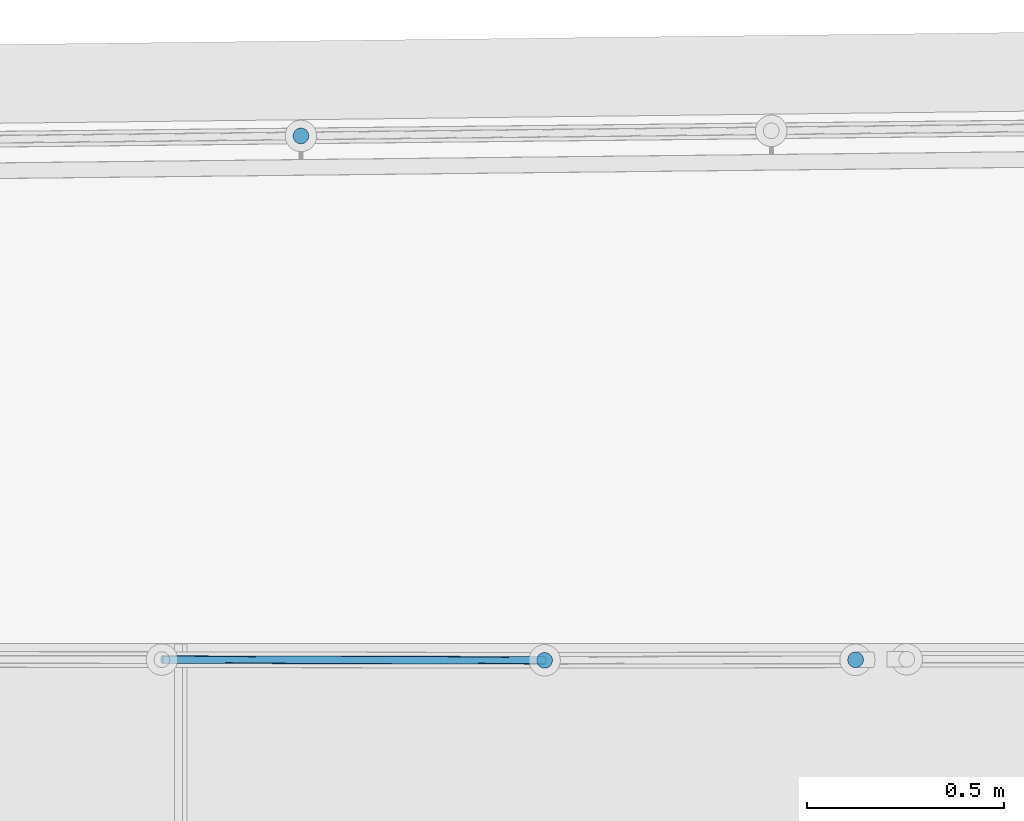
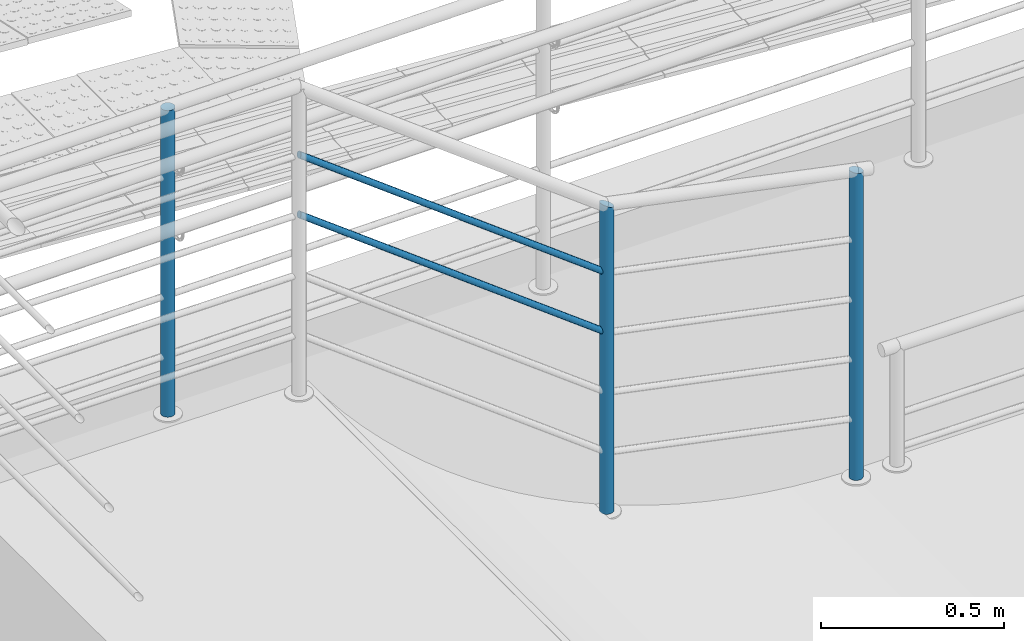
# One storey, part 34 of 237: 5 building element parts, 2 elements without a shape of their own.
"""IFC2X3 building model written with IfcOpenShell, lengths in millimetres."""

from ifc_helpers import new_model, entity, si_unit, converted_unit, derived_unit, money_unit, direction, frame, origin_with_axes, place, context, subcontext, project, spatial, faceted_brep, material, type_object, element, aggregate, save


model = new_model("IFC2X3")

# Units and contexts
model_context = context("Model", 3, precision=0.01, world=origin_with_axes(), true_north=direction((0.0, 1.0)))
body_context = subcontext(model_context, "Body", "Model", "MODEL_VIEW")
ifc_project = project(units=[si_unit("LENGTHUNIT", "METRE", prefix="MILLI"), si_unit("AREAUNIT", "SQUARE_METRE"), si_unit("VOLUMEUNIT", "CUBIC_METRE"), converted_unit("PLANEANGLEUNIT", "DEGREE", entity("IfcPlaneAngleMeasure", 0.0174532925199), si_unit("PLANEANGLEUNIT", "RADIAN"), dimensions=[0, 0, 0, 0, 0, 0, 0]), money_unit("USD"), converted_unit("TIMEUNIT", "Year", entity("IfcTimeMeasure", 31556926.0), si_unit("TIMEUNIT", "SECOND"), dimensions=[0, 0, 1, 0, 0, 0, 0]), si_unit("MASSUNIT", "GRAM", prefix="KILO"), si_unit("THERMODYNAMICTEMPERATUREUNIT", "DEGREE_CELSIUS"), si_unit("LUMINOUSINTENSITYUNIT", "LUMEN"), si_unit("ENERGYUNIT", "JOULE", prefix="MEGA"), derived_unit("THERMALCONDUCTANCEUNIT", [(si_unit("POWERUNIT", "WATT"), 1), (si_unit("LENGTHUNIT", "METRE"), -1), (si_unit("THERMODYNAMICTEMPERATUREUNIT", "KELVIN"), -1)]), derived_unit("SPECIFICHEATCAPACITYUNIT", [(si_unit("ENERGYUNIT", "JOULE"), 1), (si_unit("MASSUNIT", "GRAM", prefix="KILO"), -1), (si_unit("THERMODYNAMICTEMPERATUREUNIT", "KELVIN"), -1)]), derived_unit("MASSDENSITYUNIT", [(si_unit("MASSUNIT", "GRAM", prefix="KILO"), 1), (si_unit("VOLUMEUNIT", "CUBIC_METRE"), -1)])], contexts=[model_context])

# Site, building, storey
site_placement = place(None, origin_with_axes())
site = spatial("IfcSite", under=ifc_project, at=site_placement, Name="Local", CompositionType="ELEMENT")
building_placement = place(site_placement, origin_with_axes())
building = spatial("IfcBuilding", under=site, at=building_placement, Name="Construção", CompositionType="ELEMENT")
storey_placement = place(building_placement, origin_with_axes())
storey = spatial("IfcBuildingStorey", under=building, at=storey_placement, Name="Pavimento Térreo", CompositionType="ELEMENT", Elevation=0.0)

# Railing, building element part
railing_type = type_object("IfcRailingType", Name="Tipo de Guarda-Corpo", PredefinedType="NOTDEFINED")
railing_1_placement = place(storey_placement, frame((70326.6870103, 28675.2458388, -1357.10819655), z_axis=(0.0, 0.0, 1.0), x_axis=(1.0, 0.0, 0.0)))
railing_1 = element("IfcRailing", 1, at=railing_1_placement, inside=storey, type_object=railing_type, Name="Guarda-Corpo - 004", PredefinedType="NOTDEFINED")
ifc_material = material(Name="Aço - Inoxidável")
building_element_part_1_placement = place(railing_1_placement, origin_with_axes())
building_element_part_1 = element("IfcBuildingElementPart", 2, at=building_element_part_1_placement, material=ifc_material, Name="Aço - Inoxidável", context=body_context, shape_type="Brep", body=[
    faceted_brep([(-17859.6291669, 6528.80504261, 5.0), (-17863.1052296, 6529.07109751, 5.0), (-17863.1052296, 6529.07109751, 1030.0), (-17859.6291669, 6528.80504261, 1030.0), (-17866.5746831, 6528.72949848, 5.0), (-17856.2521132, 6527.93941772, 5.0), (-17853.0766788, 6526.50052441, 5.0), (-17850.1993476, 6524.53208272, 5.0), (-17847.7075459, 6522.09390276, 5.0), (-17845.6769857, 6519.2600674, 5.0), (-17844.1693646, 6516.11668129, 5.0), (-17843.2304909, 6512.75925462, 5.0), (-17842.8888919, 6509.2898011, 5.0), (-17843.1549468, 6505.81373833, 5.0), (-17844.0205717, 6502.43668472, 5.0), (-17845.459465, 6499.26125032, 5.0), (-17847.4279067, 6496.3839191, 5.0), (-17849.8660866, 6493.89211733, 5.0), (-17852.699922, 6491.86155713, 5.0), (-17855.8433081, 6490.35393604, 5.0), (-17859.2007348, 6489.41506238, 5.0), (-17862.6701883, 6489.07346335, 5.0), (-17866.1462511, 6489.33951825, 5.0), (-17869.5233047, 6490.20514314, 5.0), (-17872.6987391, 6491.64403645, 5.0), (-17875.5760703, 6493.61247814, 5.0), (-17878.0678721, 6496.0506581, 5.0), (-17880.0984323, 6498.88449346, 5.0), (-17881.6060533, 6502.02787957, 5.0), (-17882.544927, 6505.38530624, 5.0), (-17882.886526, 6508.85475976, 5.0), (-17882.6204711, 6512.33082253, 5.0), (-17881.7548462, 6515.70787614, 5.0), (-17880.3159529, 6518.88331054, 5.0), (-17878.3475112, 6521.76064176, 5.0), (-17875.9093313, 6524.25244353, 5.0), (-17873.0754959, 6526.28300373, 5.0), (-17869.9321098, 6527.79062482, 5.0), (-17866.5746831, 6528.72949848, 1030.0), (-17843.1549468, 6505.81373833, 1030.0), (-17842.8888919, 6509.2898011, 1030.0), (-17843.2304909, 6512.75925462, 1030.0), (-17844.1693646, 6516.11668129, 1030.0), (-17845.6769857, 6519.2600674, 1030.0), (-17847.7075459, 6522.09390276, 1030.0), (-17850.1993476, 6524.53208272, 1030.0), (-17853.0766788, 6526.50052441, 1030.0), (-17856.2521132, 6527.93941772, 1030.0), (-17869.9321098, 6527.79062482, 1030.0), (-17873.0754959, 6526.28300373, 1030.0), (-17875.9093313, 6524.25244353, 1030.0), (-17878.3475112, 6521.76064176, 1030.0), (-17880.3159529, 6518.88331054, 1030.0), (-17881.7548462, 6515.70787614, 1030.0), (-17882.6204711, 6512.33082253, 1030.0), (-17882.886526, 6508.85475976, 1030.0), (-17882.544927, 6505.38530624, 1030.0), (-17881.6060533, 6502.02787957, 1030.0), (-17880.0984323, 6498.88449346, 1030.0), (-17878.0678721, 6496.0506581, 1030.0), (-17875.5760703, 6493.61247814, 1030.0), (-17872.6987391, 6491.64403645, 1030.0), (-17869.5233047, 6490.20514314, 1030.0), (-17866.1462511, 6489.33951825, 1030.0), (-17862.6701883, 6489.07346335, 1030.0), (-17859.2007348, 6489.41506238, 1030.0), (-17855.8433081, 6490.35393604, 1030.0), (-17852.699922, 6491.86155713, 1030.0), (-17849.8660866, 6493.89211733, 1030.0), (-17847.4279067, 6496.3839191, 1030.0), (-17845.459465, 6499.26125032, 1030.0), (-17844.0205717, 6502.43668472, 1030.0)], [[[0, 1, 2, 3]], [[4, 1, 0, 5, 6, 7, 8, 9, 10, 11, 12, 13, 14, 15, 16, 17, 18, 19, 20, 21, 22, 23, 24, 25, 26, 27, 28, 29, 30, 31, 32, 33, 34, 35, 36, 37]], [[1, 4, 38, 2]], [[39, 40, 41, 42, 43, 44, 45, 46, 47, 3, 2, 38, 48, 49, 50, 51, 52, 53, 54, 55, 56, 57, 58, 59, 60, 61, 62, 63, 64, 65, 66, 67, 68, 69, 70, 71]], [[5, 0, 3, 47]], [[6, 5, 47, 46]], [[7, 6, 46, 45]], [[8, 7, 45, 44]], [[9, 8, 44, 43]], [[10, 9, 43, 42]], [[11, 10, 42, 41]], [[12, 11, 41, 40]], [[13, 12, 40, 39]], [[14, 13, 39, 71]], [[15, 14, 71, 70]], [[16, 15, 70, 69]], [[17, 16, 69, 68]], [[18, 17, 68, 67]], [[19, 18, 67, 66]], [[20, 19, 66, 65]], [[21, 20, 65, 64]], [[22, 21, 64, 63]], [[23, 22, 63, 62]], [[24, 23, 62, 61]], [[25, 24, 61, 60]], [[26, 25, 60, 59]], [[27, 26, 59, 58]], [[28, 27, 58, 57]], [[29, 28, 57, 56]], [[30, 29, 56, 55]], [[31, 30, 55, 54]], [[32, 31, 54, 53]], [[33, 32, 53, 52]], [[34, 33, 52, 51]], [[35, 34, 51, 50]], [[36, 35, 50, 49]], [[37, 36, 49, 48]], [[4, 37, 48, 38]]]),
])
aggregate(railing_1, [building_element_part_1])

# Railing, building element parts
railing_2_placement = place(storey_placement, frame((53912.4440926, 33356.4497128, -1263.04952679), z_axis=(0.0, 0.0, 1.0), x_axis=(1.0, 0.0, 0.0)))
railing_2 = element("IfcRailing", 3, at=railing_2_placement, inside=storey, type_object=railing_type, Name="Guarda-Corpo - 001", PredefinedType="NOTDEFINED")
building_element_part_2_placement = place(railing_2_placement, origin_with_axes())
building_element_part_2 = element("IfcBuildingElementPart", 4, at=building_element_part_2_placement, material=ifc_material, Name="Aço - Inoxidável", context=body_context, shape_type="Brep", body=[
    faceted_brep([(-36.4923785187, 516.842523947, 13.3012502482), (-39.9658548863, 517.140449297, 13.3012502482), (-39.9658548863, 517.140449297, 1038.30125025), (-36.4923785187, 516.842523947, 1037.58050176), (-43.438295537, 516.83068565, 13.3012502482), (-33.1234062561, 515.945961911, 13.3012502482), (-29.9613026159, 514.478004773, 13.3012502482), (-27.1021465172, 512.483255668, 13.3012502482), (-24.6328119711, 510.022324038, 13.3012502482), (-22.6283284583, 507.169984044, 13.3012502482), (-21.149601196, 504.012902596, 13.3012502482), (-20.2415605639, 500.647006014, 13.3012502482), (-19.9317969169, 497.174565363, 13.3012502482), (-20.2297222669, 493.701088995, 13.3012502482), (-21.1262843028, 490.332116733, 13.3012502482), (-22.5942414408, 487.170013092, 13.3012502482), (-24.5889905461, 484.310856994, 13.3012502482), (-27.0499221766, 481.841522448, 13.3012502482), (-29.9022621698, 479.837038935, 13.3012502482), (-33.0593436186, 478.358311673, 13.3012502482), (-36.4252402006, 477.45027104, 13.3012502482), (-39.8976808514, 477.140507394, 13.3012502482), (-43.3711572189, 477.438432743, 13.3012502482), (-46.7401294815, 478.334994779, 13.3012502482), (-49.9022331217, 479.802951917, 13.3012502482), (-52.7613892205, 481.797701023, 13.3012502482), (-55.2307237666, 484.258632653, 13.3012502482), (-57.2352072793, 487.110972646, 13.3012502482), (-58.7139345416, 490.268054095, 13.3012502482), (-59.6219751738, 493.633950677, 13.3012502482), (-59.9317388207, 497.106391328, 13.3012502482), (-59.6338134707, 500.579867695, 13.3012502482), (-58.7372514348, 503.948839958, 13.3012502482), (-57.2692942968, 507.110943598, 13.3012502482), (-55.2745451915, 509.970099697, 13.3012502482), (-52.813613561, 512.439434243, 13.3012502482), (-49.9612735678, 514.443917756, 13.3012502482), (-46.804192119, 515.922645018, 13.3012502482), (-43.438295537, 516.83068565, 1039.02199874), (-20.2297222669, 493.701088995, 1034.21368245), (-19.9317969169, 497.174565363, 1034.15062512), (-20.2415605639, 500.647006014, 1034.21368245), (-21.149601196, 504.012902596, 1034.40093845), (-22.6283284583, 507.169984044, 1034.70670345), (-24.6328119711, 510.022324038, 1035.12168694), (-27.1021465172, 512.483255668, 1035.63327985), (-29.9613026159, 514.478004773, 1036.22593769), (-33.1234062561, 515.945961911, 1036.88165285), (-46.804192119, 515.922645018, 1039.72084765), (-49.9612735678, 514.443917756, 1040.37656281), (-52.813613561, 512.439434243, 1040.96922065), (-55.2745451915, 509.970099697, 1041.48081356), (-57.2692942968, 507.110943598, 1041.89579705), (-58.7372514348, 503.948839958, 1042.20156205), (-59.6338134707, 500.579867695, 1042.38881805), (-59.9317388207, 497.106391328, 1042.45187537), (-59.6219751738, 493.633950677, 1042.38881805), (-58.7139345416, 490.268054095, 1042.20156205), (-57.2352072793, 487.110972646, 1041.89579705), (-55.2307237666, 484.258632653, 1041.48081356), (-52.7613892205, 481.797701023, 1040.96922065), (-49.9022331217, 479.802951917, 1040.37656281), (-46.7401294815, 478.334994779, 1039.72084765), (-43.3711572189, 477.438432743, 1039.02199874), (-39.8976808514, 477.140507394, 1038.30125025), (-36.4252402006, 477.45027104, 1037.58050176), (-33.0593436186, 478.358311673, 1036.88165285), (-29.9022621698, 479.837038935, 1036.22593769), (-27.0499221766, 481.841522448, 1035.63327985), (-24.5889905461, 484.310856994, 1035.12168694), (-22.5942414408, 487.170013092, 1034.70670345), (-21.1262843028, 490.332116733, 1034.40093845)], [[[0, 1, 2, 3]], [[4, 1, 0, 5, 6, 7, 8, 9, 10, 11, 12, 13, 14, 15, 16, 17, 18, 19, 20, 21, 22, 23, 24, 25, 26, 27, 28, 29, 30, 31, 32, 33, 34, 35, 36, 37]], [[1, 4, 38, 2]], [[39, 40, 41, 42, 43, 44, 45, 46, 47, 3, 2, 38, 48, 49, 50, 51, 52, 53, 54, 55, 56, 57, 58, 59, 60, 61, 62, 63, 64, 65, 66, 67, 68, 69, 70, 71]], [[5, 0, 3, 47]], [[6, 5, 47, 46]], [[7, 6, 46, 45]], [[8, 7, 45, 44]], [[9, 8, 44, 43]], [[10, 9, 43, 42]], [[11, 10, 42, 41]], [[12, 11, 41, 40]], [[13, 12, 40, 39]], [[14, 13, 39, 71]], [[15, 14, 71, 70]], [[16, 15, 70, 69]], [[17, 16, 69, 68]], [[18, 17, 68, 67]], [[19, 18, 67, 66]], [[20, 19, 66, 65]], [[21, 20, 65, 64]], [[22, 21, 64, 63]], [[23, 22, 63, 62]], [[24, 23, 62, 61]], [[25, 24, 61, 60]], [[26, 25, 60, 59]], [[27, 26, 59, 58]], [[28, 27, 58, 57]], [[29, 28, 57, 56]], [[30, 29, 56, 55]], [[31, 30, 55, 54]], [[32, 31, 54, 53]], [[33, 32, 53, 52]], [[34, 33, 52, 51]], [[35, 34, 51, 50]], [[36, 35, 50, 49]], [[37, 36, 49, 48]], [[4, 37, 48, 38]]]),
])
building_element_part_3_placement = place(railing_2_placement, origin_with_axes())
building_element_part_3 = element("IfcBuildingElementPart", 5, at=building_element_part_3_placement, material=ifc_material, Name="Aço - Inoxidável", context=body_context, shape_type="Brep", body=[
    faceted_brep([(-826.237588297, 515.496519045, 177.162822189), (-829.71106404, 515.794444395, 177.162822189), (-829.701707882, 515.794458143, 1202.18356273), (-826.228374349, 515.496532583, 1200.60893304), (-833.183505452, 515.484680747, 177.162822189), (-822.884994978, 514.604315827, 177.162822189), (-822.868618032, 514.599957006, 177.162822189), (-819.721910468, 513.139147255, 177.162822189), (-819.706517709, 513.131999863, 177.162822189), (-816.861302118, 511.14697664, 177.162822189), (-816.847366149, 511.137250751, 177.162822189), (-814.390086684, 508.688333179, 177.162822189), (-814.378037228, 508.676319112, 177.162822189), (-812.383350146, 505.837919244, 177.162822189), (-812.373560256, 505.823979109, 177.162822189), (-810.902066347, 502.682340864, 177.162822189), (-810.894840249, 502.66689765, 177.162822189), (-809.991244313, 499.317476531, 177.162822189), (-809.986807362, 499.301001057, 177.162822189), (-809.678560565, 495.845564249, 177.162822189), (-809.677051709, 495.828560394, 177.162822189), (-809.973517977, 492.372095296, 177.162822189), (-809.974985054, 492.355084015, 177.162822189), (-810.867156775, 489.002609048, 177.162822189), (-810.871554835, 488.986111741, 177.162822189), (-812.332326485, 485.839486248, 177.162822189), (-812.339519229, 485.82400809, 177.162822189), (-814.324510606, 482.978838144, 177.162822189), (-814.334274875, 482.964851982, 177.162822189), (-816.783178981, 480.507586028, 177.162822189), (-816.795212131, 480.495517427, 177.162822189), (-819.633626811, 478.500819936, 177.162822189), (-819.647556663, 478.491033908, 177.162822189), (-822.789244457, 477.019516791, 177.162822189), (-822.804641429, 477.012306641, 177.162822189), (-826.154149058, 476.108687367, 177.162822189), (-826.170540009, 476.104266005, 177.162822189), (-829.642981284, 475.794502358, 177.162822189), (-833.11645689, 476.092427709, 177.162822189), (-836.469099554, 476.984644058, 177.162822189), (-836.485427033, 476.988989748, 177.162822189), (-839.632226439, 478.449842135, 177.162822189), (-839.647527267, 478.456946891, 177.162822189), (-842.492864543, 480.44205501, 177.162822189), (-842.506678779, 480.451696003, 177.162822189), (-844.964093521, 482.900748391, 177.162822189), (-844.9760077, 482.912627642, 177.162822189), (-846.970825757, 485.751213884, 177.162822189), (-846.980484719, 485.764967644, 177.162822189), (-848.452087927, 488.906839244, 177.162822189), (-848.459204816, 488.922049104, 177.162822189), (-849.362873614, 492.271740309, 177.162822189), (-849.367237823, 492.287945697, 177.162822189), (-849.675510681, 495.743674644, 177.162822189), (-849.676993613, 495.760386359, 177.162822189), (-849.380501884, 499.217148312, 177.162822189), (-849.379060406, 499.233862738, 177.162822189), (-848.486813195, 502.586621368, 177.162822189), (-848.482490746, 502.602835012, 177.162822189), (-847.021601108, 505.74971466, 177.162822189), (-847.014526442, 505.764938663, 177.162822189), (-845.029387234, 508.6103205, 177.162822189), (-845.019770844, 508.624094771, 177.162822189), (-842.57070532, 511.081522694, 177.162822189), (-842.558833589, 511.093429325, 177.162822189), (-839.720261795, 513.088237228, 177.162822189), (-839.706489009, 513.097912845, 177.162822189), (-836.56466578, 514.569493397, 177.162822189), (-836.549404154, 514.576640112, 177.162822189), (-833.199797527, 515.480286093, 177.162822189), (-833.174291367, 515.484694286, 1203.75756222), (-809.976609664, 492.355081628, 1193.23083892), (-809.677051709, 495.828560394, 1193.0967058), (-809.985182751, 499.301003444, 1193.23804203), (-810.891640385, 502.666902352, 1193.6505532), (-812.368882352, 505.823985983, 1194.32170535), (-814.372023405, 508.676327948, 1195.23110587), (-816.840199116, 511.137261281, 1196.35112308), (-819.698415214, 513.132011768, 1197.64772582), (-822.85982625, 514.599969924, 1199.08151749), (-836.540612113, 514.57665303, 1205.28310635), (-839.698386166, 513.097924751, 1206.71384222), (-842.551666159, 511.093439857, 1208.00629765), (-845.013756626, 508.624103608, 1209.12120203), (-847.009848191, 505.764945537, 1210.02467957), (-848.479290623, 502.602839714, 1210.68927854), (-849.377435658, 499.233865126, 1211.09480546), (-849.676993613, 495.760386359, 1211.22893858), (-849.368862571, 492.28794331, 1211.08760235), (-848.462404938, 488.922044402, 1210.67509118), (-846.98516297, 485.764960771, 1210.00393903), (-844.982021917, 482.912618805, 1209.09453851), (-842.513846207, 480.451685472, 1207.9745213), (-839.655630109, 478.456934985, 1206.67791855), (-836.494219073, 476.98897683, 1205.24412689), (-833.125670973, 476.09241417, 1203.71671134), (-829.65233744, 475.794488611, 1202.14208165), (-826.179753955, 476.104252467, 1200.56808216), (-822.81343321, 477.012293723, 1199.04253803), (-819.655659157, 478.491022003, 1197.61180216), (-816.802379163, 480.495506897, 1196.31934673), (-814.340288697, 482.964843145, 1195.20444234), (-812.344197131, 485.824001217, 1194.30096481), (-810.874754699, 488.986107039, 1193.63636583)], [[[0, 1, 2, 3]], [[4, 1, 0, 5, 6, 7, 8, 9, 10, 11, 12, 13, 14, 15, 16, 17, 18, 19, 20, 21, 22, 23, 24, 25, 26, 27, 28, 29, 30, 31, 32, 33, 34, 35, 36, 37, 38, 39, 40, 41, 42, 43, 44, 45, 46, 47, 48, 49, 50, 51, 52, 53, 54, 55, 56, 57, 58, 59, 60, 61, 62, 63, 64, 65, 66, 67, 68, 69]], [[1, 4, 70, 2]], [[71, 72, 73, 74, 75, 76, 77, 78, 79, 3, 2, 70, 80, 81, 82, 83, 84, 85, 86, 87, 88, 89, 90, 91, 92, 93, 94, 95, 96, 97, 98, 99, 100, 101, 102, 103]], [[5, 0, 3]], [[6, 5, 3, 79]], [[7, 6, 79]], [[8, 7, 79, 78]], [[9, 8, 78]], [[10, 9, 78, 77]], [[11, 10, 77]], [[12, 11, 77, 76]], [[13, 12, 76]], [[14, 13, 76, 75]], [[15, 14, 75]], [[16, 15, 75, 74]], [[17, 16, 74]], [[18, 17, 74, 73]], [[19, 18, 73]], [[20, 19, 73, 72]], [[21, 20, 72]], [[22, 21, 72, 71]], [[23, 22, 71]], [[24, 23, 71, 103]], [[25, 24, 103]], [[26, 25, 103, 102]], [[27, 26, 102]], [[28, 27, 102, 101]], [[29, 28, 101]], [[30, 29, 101, 100]], [[31, 30, 100]], [[32, 31, 100, 99]], [[33, 32, 99]], [[34, 33, 99, 98]], [[35, 34, 98]], [[36, 35, 98, 97]], [[37, 36, 97, 96]], [[38, 37, 96, 95]], [[39, 38, 95]], [[40, 39, 95, 94]], [[41, 40, 94]], [[42, 41, 94, 93]], [[43, 42, 93]], [[44, 43, 93, 92]], [[45, 44, 92]], [[46, 45, 92, 91]], [[47, 46, 91]], [[48, 47, 91, 90]], [[49, 48, 90]], [[50, 49, 90, 89]], [[51, 50, 89]], [[52, 51, 89, 88]], [[53, 52, 88]], [[54, 53, 88, 87]], [[55, 54, 87]], [[56, 55, 87, 86]], [[57, 56, 86]], [[58, 57, 86, 85]], [[59, 58, 85]], [[60, 59, 85, 84]], [[61, 60, 84]], [[62, 61, 84, 83]], [[63, 62, 83]], [[64, 63, 83, 82]], [[65, 64, 82]], [[66, 65, 82, 81]], [[67, 66, 81]], [[68, 67, 81, 80]], [[69, 68, 80]], [[4, 69, 80, 70]]]),
])
building_element_part_4_placement = place(railing_2_placement, origin_with_axes())
building_element_part_4 = element("IfcBuildingElementPart", 6, at=building_element_part_4_placement, material=ifc_material, Name="Aço - Inoxidável", context=body_context, shape_type="Brep", body=[
    faceted_brep([(-829.676541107, 485.79446024, 772.127331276), (-828.94174093, 485.946418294, 773.748317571), (-1801.25620726, 487.874005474, 1507.65886625), (-830.411355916, 485.946347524, 770.506344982), (-831.123858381, 486.397465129, 768.934611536), (-831.792399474, 487.134106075, 767.459887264), (-832.396665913, 488.133887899, 766.126980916), (-832.918297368, 489.366432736, 764.976392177), (-833.341444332, 490.794290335, 764.043081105), (-833.653249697, 492.374075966, 763.355405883), (-833.844239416, 494.057788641, 762.934261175), (-833.908610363, 495.794269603, 762.792443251), (-833.844406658, 497.530756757, 762.934261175), (-833.6535791, 499.214487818, 763.355405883), (-833.341925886, 500.794303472, 764.043081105), (-832.918916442, 502.222201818, 764.976392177), (-832.397403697, 503.454796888, 766.126980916), (-831.79323355, 504.454636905, 767.459887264), (-831.124763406, 505.191342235, 768.934611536), (-830.412304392, 505.642528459, 770.506344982), (-829.677504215, 505.794486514, 772.127331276), (-828.942689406, 505.642599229, 773.748317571), (-828.230186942, 505.191481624, 775.320051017), (-827.561645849, 504.454840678, 776.794775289), (-826.957379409, 503.455058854, 778.127681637), (-826.435747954, 502.222514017, 779.278270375), (-826.012600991, 500.794656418, 780.211581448), (-825.700795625, 499.214870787, 780.89925667), (-825.509805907, 497.531158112, 781.320401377), (-825.44543496, 495.79467715, 781.462219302), (-825.509638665, 494.058189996, 781.320401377), (-825.700466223, 492.374458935, 780.89925667), (-826.012119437, 490.794643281, 780.211581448), (-826.43512888, 489.366744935, 779.278270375), (-826.956641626, 488.134149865, 778.127681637), (-827.560811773, 487.134309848, 776.794775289), (-828.229281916, 486.397604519, 775.320051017), (-1800.69150946, 488.324431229, 1509.34258587), (-1801.83819791, 487.722831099, 1505.9223845), (-1802.41979792, 487.875501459, 1504.18590275), (-1802.98333567, 488.327377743, 1502.50218313), (-1803.51168834, 489.06472992, 1500.92238459), (-1803.98880221, 490.065153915, 1499.49450852), (-1804.40018042, 491.298252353, 1498.2619402), (-1804.73332344, 492.726558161, 1497.26213061), (-1804.9781089, 494.30667299, 1496.52545846), (-1805.12709911, 495.99058585, 1496.07430714), (-1805.17576707, 497.727131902, 1495.92238468), (-1805.12263405, 499.463547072, 1496.07430714), (-1804.96931445, 501.147071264, 1496.52545846), (-1804.72046683, 502.726551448, 1497.26213061), (-1804.38365227, 504.153995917, 1498.2619402), (-1803.96910473, 505.386032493, 1499.49450852), (-1803.48942003, 506.385226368, 1500.92238459), (-1802.95917313, 507.121217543, 1502.50218313), (-1802.39447533, 507.571643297, 1504.18590275), (-1801.81248468, 507.722817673, 1505.9223845), (-1801.23088467, 507.570147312, 1507.65886625), (-1800.66734692, 507.118271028, 1509.34258587), (-1800.13899425, 506.380918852, 1510.92238441), (-1799.66188038, 505.380494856, 1512.35026049), (-1799.25050217, 504.147396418, 1513.5828288), (-1798.91735915, 502.71909061, 1514.58263839), (-1798.67257369, 501.138975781, 1515.31931055), (-1798.52358349, 499.455062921, 1515.77046186), (-1798.47491552, 497.718516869, 1515.92238433), (-1798.52804854, 495.982101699, 1515.77046186), (-1798.68136814, 494.298577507, 1515.31931055), (-1798.93021577, 492.719097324, 1514.58263839), (-1799.26703032, 491.291652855, 1513.5828288), (-1799.68157786, 490.059616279, 1512.35026049), (-1800.16126256, 489.060422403, 1510.92238441)], [[[0, 1, 2]], [[0, 3, 4, 5, 6, 7, 8, 9, 10, 11, 12, 13, 14, 15, 16, 17, 18, 19, 20, 21, 22, 23, 24, 25, 26, 27, 28, 29, 30, 31, 32, 33, 34, 35, 36, 1]], [[1, 37, 2]], [[0, 2, 38]], [[3, 0, 38]], [[4, 3, 39]], [[5, 4, 40]], [[6, 5, 41]], [[7, 6, 42]], [[8, 7, 43]], [[9, 8, 44]], [[10, 9, 45]], [[11, 10, 46]], [[12, 11, 47]], [[13, 12, 48]], [[14, 13, 49]], [[15, 14, 50]], [[16, 15, 51]], [[17, 16, 52]], [[18, 17, 53]], [[19, 18, 54]], [[20, 19, 55]], [[21, 20, 56]], [[22, 21, 57]], [[23, 22, 58]], [[24, 23, 59]], [[25, 24, 60]], [[26, 25, 61]], [[27, 26, 62]], [[28, 27, 63]], [[29, 28, 64]], [[30, 29, 65]], [[31, 30, 66]], [[32, 31, 67]], [[33, 32, 68]], [[34, 33, 69]], [[35, 34, 70]], [[36, 35, 71]], [[1, 36, 37]], [[38, 2, 37, 71, 70, 69, 68, 67, 66, 65, 64, 63, 62, 61, 60, 59, 58, 57, 56, 55, 54, 53, 52, 51, 50, 49, 48, 47, 46, 45, 44, 43, 42, 41, 40, 39]], [[3, 38, 39]], [[4, 39, 40]], [[5, 40, 41]], [[6, 41, 42]], [[7, 42, 43]], [[8, 43, 44]], [[9, 44, 45]], [[10, 45, 46]], [[11, 46, 47]], [[12, 47, 48]], [[13, 48, 49]], [[14, 49, 50]], [[15, 50, 51]], [[16, 51, 52]], [[17, 52, 53]], [[18, 53, 54]], [[19, 54, 55]], [[20, 55, 56]], [[21, 56, 57]], [[22, 57, 58]], [[23, 58, 59]], [[24, 59, 60]], [[25, 60, 61]], [[26, 61, 62]], [[27, 62, 63]], [[28, 63, 64]], [[29, 64, 65]], [[30, 65, 66]], [[31, 66, 67]], [[32, 67, 68]], [[33, 68, 69]], [[34, 69, 70]], [[35, 70, 71]], [[36, 71, 37]]]),
])
building_element_part_5_placement = place(railing_2_placement, origin_with_axes())
building_element_part_5 = element("IfcBuildingElementPart", 7, at=building_element_part_5_placement, material=ifc_material, Name="Aço - Inoxidável", context=body_context, shape_type="Brep", body=[
    faceted_brep([(-829.676541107, 485.79446024, 972.127331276), (-828.94174093, 485.946418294, 973.748317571), (-1801.25620726, 487.874005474, 1707.65886625), (-830.411355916, 485.946347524, 970.506344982), (-831.123858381, 486.397465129, 968.934611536), (-831.792399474, 487.134106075, 967.459887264), (-832.396665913, 488.133887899, 966.126980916), (-832.918297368, 489.366432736, 964.976392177), (-833.341444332, 490.794290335, 964.043081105), (-833.653249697, 492.374075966, 963.355405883), (-833.844239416, 494.057788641, 962.934261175), (-833.908610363, 495.794269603, 962.792443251), (-833.844406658, 497.530756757, 962.934261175), (-833.6535791, 499.214487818, 963.355405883), (-833.341925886, 500.794303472, 964.043081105), (-832.918916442, 502.222201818, 964.976392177), (-832.397403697, 503.454796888, 966.126980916), (-831.79323355, 504.454636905, 967.459887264), (-831.124763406, 505.191342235, 968.934611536), (-830.412304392, 505.642528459, 970.506344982), (-829.677504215, 505.794486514, 972.127331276), (-828.942689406, 505.642599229, 973.748317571), (-828.230186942, 505.191481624, 975.320051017), (-827.561645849, 504.454840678, 976.794775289), (-826.957379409, 503.455058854, 978.127681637), (-826.435747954, 502.222514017, 979.278270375), (-826.012600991, 500.794656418, 980.211581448), (-825.700795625, 499.214870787, 980.89925667), (-825.509805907, 497.531158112, 981.320401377), (-825.44543496, 495.79467715, 981.462219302), (-825.509638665, 494.058189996, 981.320401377), (-825.700466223, 492.374458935, 980.89925667), (-826.012119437, 490.794643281, 980.211581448), (-826.43512888, 489.366744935, 979.278270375), (-826.956641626, 488.134149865, 978.127681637), (-827.560811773, 487.134309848, 976.794775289), (-828.229281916, 486.397604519, 975.320051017), (-1800.69150946, 488.324431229, 1709.34258587), (-1801.83819791, 487.722831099, 1705.9223845), (-1802.41979792, 487.875501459, 1704.18590275), (-1802.98333567, 488.327377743, 1702.50218313), (-1803.51168834, 489.06472992, 1700.92238459), (-1803.98880221, 490.065153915, 1699.49450852), (-1804.40018042, 491.298252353, 1698.2619402), (-1804.73332344, 492.726558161, 1697.26213061), (-1804.9781089, 494.30667299, 1696.52545846), (-1805.12709911, 495.99058585, 1696.07430714), (-1805.17576707, 497.727131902, 1695.92238468), (-1805.12263405, 499.463547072, 1696.07430714), (-1804.96931445, 501.147071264, 1696.52545846), (-1804.72046683, 502.726551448, 1697.26213061), (-1804.38365227, 504.153995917, 1698.2619402), (-1803.96910473, 505.386032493, 1699.49450852), (-1803.48942003, 506.385226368, 1700.92238459), (-1802.95917313, 507.121217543, 1702.50218313), (-1802.39447533, 507.571643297, 1704.18590275), (-1801.81248468, 507.722817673, 1705.9223845), (-1801.23088467, 507.570147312, 1707.65886625), (-1800.66734692, 507.118271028, 1709.34258587), (-1800.13899425, 506.380918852, 1710.92238441), (-1799.66188038, 505.380494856, 1712.35026049), (-1799.25050217, 504.147396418, 1713.5828288), (-1798.91735915, 502.71909061, 1714.58263839), (-1798.67257369, 501.138975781, 1715.31931055), (-1798.52358349, 499.455062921, 1715.77046186), (-1798.47491552, 497.718516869, 1715.92238433), (-1798.52804854, 495.982101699, 1715.77046186), (-1798.68136814, 494.298577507, 1715.31931055), (-1798.93021577, 492.719097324, 1714.58263839), (-1799.26703032, 491.291652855, 1713.5828288), (-1799.68157786, 490.059616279, 1712.35026049), (-1800.16126256, 489.060422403, 1710.92238441)], [[[0, 1, 2]], [[0, 3, 4, 5, 6, 7, 8, 9, 10, 11, 12, 13, 14, 15, 16, 17, 18, 19, 20, 21, 22, 23, 24, 25, 26, 27, 28, 29, 30, 31, 32, 33, 34, 35, 36, 1]], [[1, 37, 2]], [[0, 2, 38]], [[3, 0, 38]], [[4, 3, 39]], [[5, 4, 40]], [[6, 5, 41]], [[7, 6, 42]], [[8, 7, 43]], [[9, 8, 44]], [[10, 9, 45]], [[11, 10, 46]], [[12, 11, 47]], [[13, 12, 48]], [[14, 13, 49]], [[15, 14, 50]], [[16, 15, 51]], [[17, 16, 52]], [[18, 17, 53]], [[19, 18, 54]], [[20, 19, 55]], [[21, 20, 56]], [[22, 21, 57]], [[23, 22, 58]], [[24, 23, 59]], [[25, 24, 60]], [[26, 25, 61]], [[27, 26, 62]], [[28, 27, 63]], [[29, 28, 64]], [[30, 29, 65]], [[31, 30, 66]], [[32, 31, 67]], [[33, 32, 68]], [[34, 33, 69]], [[35, 34, 70]], [[36, 35, 71]], [[1, 36, 37]], [[38, 2, 37, 71, 70, 69, 68, 67, 66, 65, 64, 63, 62, 61, 60, 59, 58, 57, 56, 55, 54, 53, 52, 51, 50, 49, 48, 47, 46, 45, 44, 43, 42, 41, 40, 39]], [[3, 38, 39]], [[4, 39, 40]], [[5, 40, 41]], [[6, 41, 42]], [[7, 42, 43]], [[8, 43, 44]], [[9, 44, 45]], [[10, 45, 46]], [[11, 46, 47]], [[12, 47, 48]], [[13, 48, 49]], [[14, 49, 50]], [[15, 50, 51]], [[16, 51, 52]], [[17, 52, 53]], [[18, 53, 54]], [[19, 54, 55]], [[20, 55, 56]], [[21, 56, 57]], [[22, 57, 58]], [[23, 58, 59]], [[24, 59, 60]], [[25, 60, 61]], [[26, 61, 62]], [[27, 62, 63]], [[28, 63, 64]], [[29, 64, 65]], [[30, 65, 66]], [[31, 66, 67]], [[32, 67, 68]], [[33, 68, 69]], [[34, 69, 70]], [[35, 70, 71]], [[36, 71, 37]]]),
])
aggregate(railing_2, [building_element_part_2, building_element_part_3, building_element_part_4, building_element_part_5])

save(model, "model.ifc")
